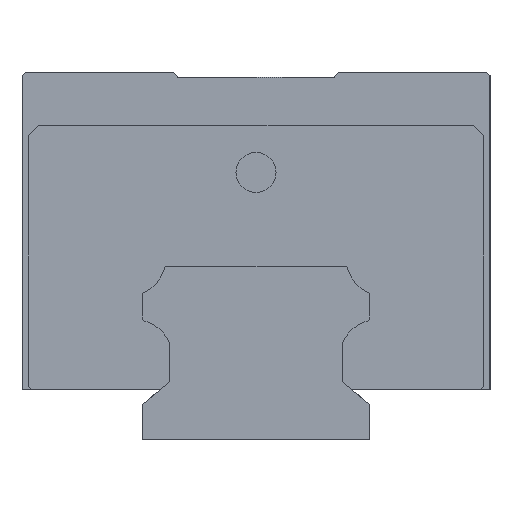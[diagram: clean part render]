
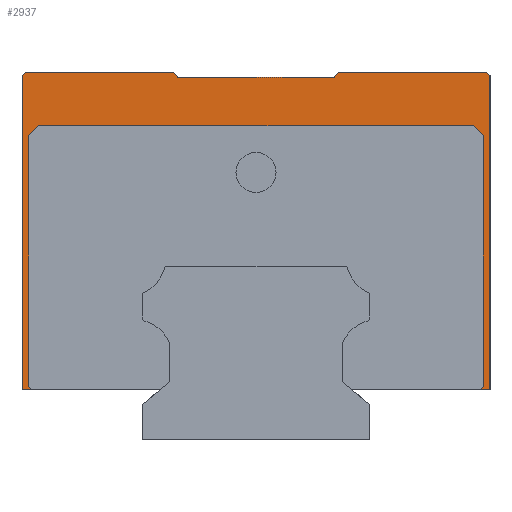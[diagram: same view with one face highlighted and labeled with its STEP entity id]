
A CAD part, left-side view. The second image highlights one B-rep face of the part: STEP entity #2937.
In plain terms, the highlighted planar face has unit normal (-1, 0, 0).
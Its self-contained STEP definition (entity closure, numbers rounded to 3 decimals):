
#61 = DIRECTION ( 'NONE',  ( 0., 0.707, 0.707 ) ) ;
#69 = DIRECTION ( 'NONE',  ( 0., -1., 0. ) ) ;
#74 = CARTESIAN_POINT ( 'NONE',  ( -61.5, -32.628, 47. ) ) ;
#86 = CARTESIAN_POINT ( 'NONE',  ( -61.5, -35., 7.5 ) ) ;
#98 = CARTESIAN_POINT ( 'NONE',  ( -61.5, 34.5, 55. ) ) ;
#166 = DIRECTION ( 'NONE',  ( 0., 0.707, 0.707 ) ) ;
#216 = EDGE_CURVE ( 'NONE', #3780, #1612, #477, .T. ) ;
#252 = CARTESIAN_POINT ( 'NONE',  ( -61.5, -35., 54.5 ) ) ;
#255 = VERTEX_POINT ( 'NONE', #3188 ) ;
#306 = VERTEX_POINT ( 'NONE', #252 ) ;
#358 = CARTESIAN_POINT ( 'NONE',  ( -61.5, 33.502, 7.5 ) ) ;
#397 = AXIS2_PLACEMENT_3D ( 'NONE', #2080, #2496, #4105 ) ;
#477 = LINE ( 'NONE', #3858, #3996 ) ;
#519 = CARTESIAN_POINT ( 'NONE',  ( -61.5, -33.498, 7.5 ) ) ;
#545 = ORIENTED_EDGE ( 'NONE', *, *, #2993, .F. ) ;
#569 = LINE ( 'NONE', #2256, #1739 ) ;
#575 = CARTESIAN_POINT ( 'NONE',  ( -61.5, 11.667, 54.25 ) ) ;
#607 = VERTEX_POINT ( 'NONE', #4176 ) ;
#633 = LINE ( 'NONE', #3148, #3802 ) ;
#727 = LINE ( 'NONE', #2407, #3036 ) ;
#905 = VERTEX_POINT ( 'NONE', #1248 ) ;
#966 = EDGE_CURVE ( 'NONE', #1612, #607, #2099, .T. ) ;
#1021 = DIRECTION ( 'NONE',  ( 0., 0., -1. ) ) ;
#1067 = EDGE_CURVE ( 'NONE', #255, #4659, #5107, .T. ) ;
#1145 = CARTESIAN_POINT ( 'NONE',  ( -61.5, 35., 7.5 ) ) ;
#1182 = CARTESIAN_POINT ( 'NONE',  ( -61.5, 35., 7.5 ) ) ;
#1248 = CARTESIAN_POINT ( 'NONE',  ( -61.5, -11.667, 54.25 ) ) ;
#1311 = EDGE_CURVE ( 'NONE', #4659, #2988, #4612, .T. ) ;
#1323 = LINE ( 'NONE', #2121, #4160 ) ;
#1330 = CARTESIAN_POINT ( 'NONE',  ( -61.5, 34.002, 8. ) ) ;
#1346 = ORIENTED_EDGE ( 'NONE', *, *, #3693, .F. ) ;
#1373 = VERTEX_POINT ( 'NONE', #2122 ) ;
#1502 = EDGE_CURVE ( 'NONE', #1711, #4733, #1759, .T. ) ;
#1510 = ORIENTED_EDGE ( 'NONE', *, *, #4345, .F. ) ;
#1520 = EDGE_CURVE ( 'NONE', #1711, #4143, #569, .T. ) ;
#1521 = LINE ( 'NONE', #3603, #1581 ) ;
#1581 = VECTOR ( 'NONE', #2352, 1000. ) ;
#1601 = DIRECTION ( 'NONE',  ( 0., 1., 0. ) ) ;
#1603 = DIRECTION ( 'NONE',  ( 0., -1., 0. ) ) ;
#1612 = VERTEX_POINT ( 'NONE', #5336 ) ;
#1626 = CARTESIAN_POINT ( 'NONE',  ( -61.5, -33.998, 45.5 ) ) ;
#1711 = VERTEX_POINT ( 'NONE', #2136 ) ;
#1731 = ORIENTED_EDGE ( 'NONE', *, *, #1520, .F. ) ;
#1739 = VECTOR ( 'NONE', #69, 1000. ) ;
#1759 = LINE ( 'NONE', #98, #4746 ) ;
#1769 = ORIENTED_EDGE ( 'NONE', *, *, #1311, .F. ) ;
#1866 = DIRECTION ( 'NONE',  ( 0., 1., 0. ) ) ;
#1910 = CARTESIAN_POINT ( 'NONE',  ( -61.5, 34.002, 45.5 ) ) ;
#1920 = EDGE_LOOP ( 'NONE', ( #545, #4929, #4798, #4907, #4991, #3022, #3917, #2728, #5204, #1731, #2767, #1346, #1769, #3258, #2048, #1510, #4507, #2338 ) ) ;
#2048 = ORIENTED_EDGE ( 'NONE', *, *, #4573, .F. ) ;
#2080 = CARTESIAN_POINT ( 'NONE',  ( -61.5, -35., 55. ) ) ;
#2099 = LINE ( 'NONE', #74, #3425 ) ;
#2121 = CARTESIAN_POINT ( 'NONE',  ( -61.5, -12.296, 55. ) ) ;
#2122 = CARTESIAN_POINT ( 'NONE',  ( -61.5, -34.5, 55. ) ) ;
#2136 = CARTESIAN_POINT ( 'NONE',  ( -61.5, 34.5, 55. ) ) ;
#2142 = EDGE_CURVE ( 'NONE', #5175, #4903, #1521, .T. ) ;
#2246 = EDGE_CURVE ( 'NONE', #905, #4331, #5002, .T. ) ;
#2256 = CARTESIAN_POINT ( 'NONE',  ( -61.5, 35., 55. ) ) ;
#2338 = ORIENTED_EDGE ( 'NONE', *, *, #216, .F. ) ;
#2352 = DIRECTION ( 'NONE',  ( 0., -0.707, 0.707 ) ) ;
#2407 = CARTESIAN_POINT ( 'NONE',  ( -61.5, -33.998, 8. ) ) ;
#2452 = EDGE_CURVE ( 'NONE', #4551, #1373, #3236, .T. ) ;
#2496 = DIRECTION ( 'NONE',  ( 1., 0., 0. ) ) ;
#2579 = CARTESIAN_POINT ( 'NONE',  ( -61.5, -11.667, 54.25 ) ) ;
#2649 = LINE ( 'NONE', #4004, #4895 ) ;
#2690 = EDGE_CURVE ( 'NONE', #306, #1373, #2717, .T. ) ;
#2709 = CARTESIAN_POINT ( 'NONE',  ( -61.5, -33.998, 8. ) ) ;
#2717 = LINE ( 'NONE', #3962, #3221 ) ;
#2728 = ORIENTED_EDGE ( 'NONE', *, *, #2246, .T. ) ;
#2740 = VERTEX_POINT ( 'NONE', #86 ) ;
#2767 = ORIENTED_EDGE ( 'NONE', *, *, #1502, .T. ) ;
#2925 = CARTESIAN_POINT ( 'NONE',  ( -61.5, 14.65, 7.5 ) ) ;
#2937 = ADVANCED_FACE ( 'NONE', ( #3717 ), #3280, .F. ) ;
#2988 = VERTEX_POINT ( 'NONE', #1145 ) ;
#2993 = EDGE_CURVE ( 'NONE', #4903, #3780, #727, .T. ) ;
#3022 = ORIENTED_EDGE ( 'NONE', *, *, #2452, .F. ) ;
#3036 = VECTOR ( 'NONE', #5362, 1000. ) ;
#3052 = VECTOR ( 'NONE', #1601, 1000. ) ;
#3075 = VECTOR ( 'NONE', #4271, 1000. ) ;
#3148 = CARTESIAN_POINT ( 'NONE',  ( -61.5, -35., 55. ) ) ;
#3163 = LINE ( 'NONE', #1910, #5120 ) ;
#3185 = VECTOR ( 'NONE', #5040, 1000. ) ;
#3188 = CARTESIAN_POINT ( 'NONE',  ( -61.5, 34.002, 8. ) ) ;
#3221 = VECTOR ( 'NONE', #166, 1000. ) ;
#3236 = LINE ( 'NONE', #4452, #4052 ) ;
#3258 = ORIENTED_EDGE ( 'NONE', *, *, #1067, .F. ) ;
#3280 = PLANE ( 'NONE',  #397 ) ;
#3405 = CARTESIAN_POINT ( 'NONE',  ( -61.5, 35., 54.5 ) ) ;
#3425 = VECTOR ( 'NONE', #4293, 1000. ) ;
#3602 = EDGE_CURVE ( 'NONE', #4331, #4143, #4011, .T. ) ;
#3603 = CARTESIAN_POINT ( 'NONE',  ( -61.5, -33.498, 7.5 ) ) ;
#3610 = DIRECTION ( 'NONE',  ( 0., 0., -1. ) ) ;
#3611 = VERTEX_POINT ( 'NONE', #3984 ) ;
#3693 = EDGE_CURVE ( 'NONE', #2988, #4733, #4937, .T. ) ;
#3717 = FACE_OUTER_BOUND ( 'NONE', #1920, .T. ) ;
#3780 = VERTEX_POINT ( 'NONE', #1626 ) ;
#3802 = VECTOR ( 'NONE', #1021, 1000. ) ;
#3831 = LINE ( 'NONE', #5456, #3185 ) ;
#3853 = EDGE_CURVE ( 'NONE', #4551, #905, #1323, .T. ) ;
#3858 = CARTESIAN_POINT ( 'NONE',  ( -61.5, -33.998, 45.5 ) ) ;
#3917 = ORIENTED_EDGE ( 'NONE', *, *, #3853, .T. ) ;
#3952 = VECTOR ( 'NONE', #4339, 1000. ) ;
#3962 = CARTESIAN_POINT ( 'NONE',  ( -61.5, -35., 54.5 ) ) ;
#3984 = CARTESIAN_POINT ( 'NONE',  ( -61.5, 34.002, 45.5 ) ) ;
#3996 = VECTOR ( 'NONE', #61, 1000. ) ;
#4004 = CARTESIAN_POINT ( 'NONE',  ( -61.5, -35., 7.5 ) ) ;
#4011 = LINE ( 'NONE', #575, #3952 ) ;
#4031 = CARTESIAN_POINT ( 'NONE',  ( -61.5, 12.296, 55. ) ) ;
#4052 = VECTOR ( 'NONE', #1603, 1000. ) ;
#4105 = DIRECTION ( 'NONE',  ( 0., 1., 0. ) ) ;
#4143 = VERTEX_POINT ( 'NONE', #4031 ) ;
#4160 = VECTOR ( 'NONE', #4173, 1000. ) ;
#4173 = DIRECTION ( 'NONE',  ( 0., 0.643, -0.766 ) ) ;
#4176 = CARTESIAN_POINT ( 'NONE',  ( -61.5, 32.502, 47. ) ) ;
#4195 = CARTESIAN_POINT ( 'NONE',  ( -61.5, 11.667, 54.25 ) ) ;
#4264 = DIRECTION ( 'NONE',  ( 0., 0.707, -0.707 ) ) ;
#4271 = DIRECTION ( 'NONE',  ( 0., 1., 0. ) ) ;
#4293 = DIRECTION ( 'NONE',  ( 0., 1., 0. ) ) ;
#4318 = DIRECTION ( 'NONE',  ( 0., -0.707, -0.707 ) ) ;
#4331 = VERTEX_POINT ( 'NONE', #4195 ) ;
#4339 = DIRECTION ( 'NONE',  ( 0., 0.643, 0.766 ) ) ;
#4345 = EDGE_CURVE ( 'NONE', #607, #3611, #3831, .T. ) ;
#4452 = CARTESIAN_POINT ( 'NONE',  ( -61.5, 35., 55. ) ) ;
#4507 = ORIENTED_EDGE ( 'NONE', *, *, #966, .F. ) ;
#4551 = VERTEX_POINT ( 'NONE', #4622 ) ;
#4573 = EDGE_CURVE ( 'NONE', #3611, #255, #3163, .T. ) ;
#4612 = LINE ( 'NONE', #2925, #3052 ) ;
#4622 = CARTESIAN_POINT ( 'NONE',  ( -61.5, -12.296, 55. ) ) ;
#4659 = VERTEX_POINT ( 'NONE', #358 ) ;
#4733 = VERTEX_POINT ( 'NONE', #3405 ) ;
#4746 = VECTOR ( 'NONE', #4264, 1000. ) ;
#4795 = EDGE_CURVE ( 'NONE', #306, #2740, #633, .T. ) ;
#4798 = ORIENTED_EDGE ( 'NONE', *, *, #5250, .F. ) ;
#4895 = VECTOR ( 'NONE', #1866, 1000. ) ;
#4903 = VERTEX_POINT ( 'NONE', #2709 ) ;
#4907 = ORIENTED_EDGE ( 'NONE', *, *, #4795, .F. ) ;
#4929 = ORIENTED_EDGE ( 'NONE', *, *, #2142, .F. ) ;
#4937 = LINE ( 'NONE', #1182, #5441 ) ;
#4991 = ORIENTED_EDGE ( 'NONE', *, *, #2690, .T. ) ;
#4993 = DIRECTION ( 'NONE',  ( 0., 0., 1. ) ) ;
#5002 = LINE ( 'NONE', #2579, #3075 ) ;
#5040 = DIRECTION ( 'NONE',  ( 0., 0.707, -0.707 ) ) ;
#5107 = LINE ( 'NONE', #1330, #5337 ) ;
#5120 = VECTOR ( 'NONE', #3610, 1000. ) ;
#5175 = VERTEX_POINT ( 'NONE', #519 ) ;
#5204 = ORIENTED_EDGE ( 'NONE', *, *, #3602, .T. ) ;
#5250 = EDGE_CURVE ( 'NONE', #2740, #5175, #2649, .T. ) ;
#5336 = CARTESIAN_POINT ( 'NONE',  ( -61.5, -32.498, 47. ) ) ;
#5337 = VECTOR ( 'NONE', #4318, 1000. ) ;
#5362 = DIRECTION ( 'NONE',  ( 0., 0., 1. ) ) ;
#5441 = VECTOR ( 'NONE', #4993, 1000. ) ;
#5456 = CARTESIAN_POINT ( 'NONE',  ( -61.5, 32.502, 47. ) ) ;
